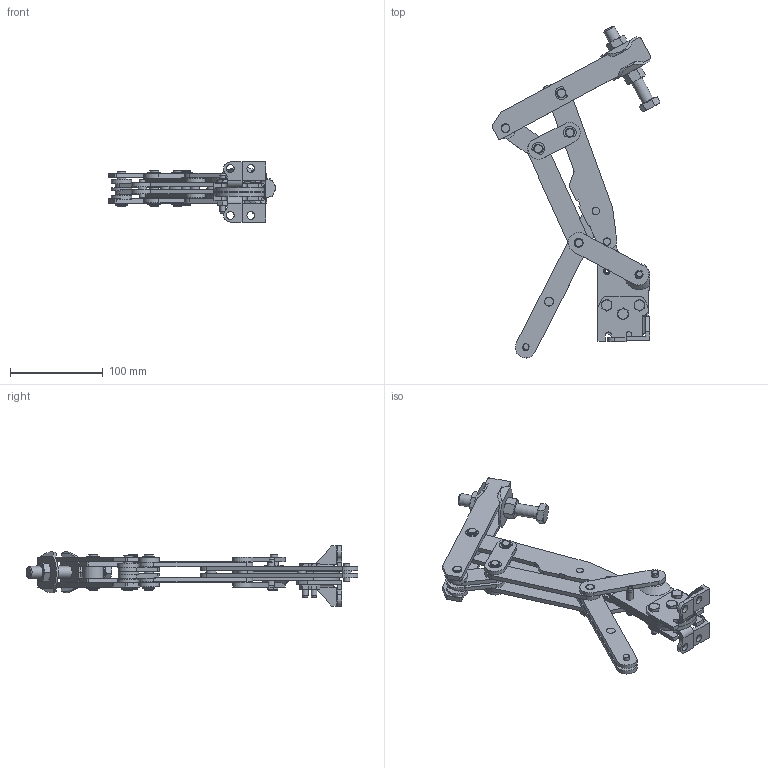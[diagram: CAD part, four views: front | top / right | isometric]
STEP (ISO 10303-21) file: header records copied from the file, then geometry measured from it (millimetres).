
FILE_DESCRIPTION((' '),'2;1');
FILE_NAME('C:\Users\Nick\Desktop\Knu-Vise WIP\DTV-Series\DTV-800\3D\DTSB-800 Open.stp','2015-08-18T08:57:12',(' '),(' '),' ','ACIS',' ');
FILE_SCHEMA(('CONFIG_CONTROL_DESIGN'));
Length unit declared in the file: inch
Products named in the file (53): C:\Users\Nick\Desktop\Knu-Vise WIP\DTV-Series\DTV-800\3D\DTSB-800 Open.stp; Body1; Body2; Body3; Body4; Body5; Body6; Body7; Body8; Body9; Body10; Body11; Body12; Body13; Body14; Body15; Body16; Body17; Body18; Body19; Body20; Body21; Body22; Body23; Body24; Body25; Body26; Body27; Body28; Body29; Body30; Body31; Body32; Body33; Body34; Body35; Body36; Body37; Body38; Body39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
Assembly tree (52 placements, depth 2):
  C:\Users\Nick\Desktop\Knu-Vise WIP\DTV-Series\DTV-800\3D\DTSB-800 Open.stp
    Body1
    Body2
    Body3
    Body4
    Body5
    Body6
    Body7
    Body8
    Body9
    Body10
    Body11
    Body12
    Body13
    Body14
    Body15
    Body16
    Body17
    Body18
    Body19
    Body20
    Body21
    Body22
    Body23
    Body24
    Body25
    Body26
    Body27
    Body28
    Body29
    Body30
    Body31
    Body32
    Body33
    Body34
    Body35
    Body36
    Body37
    Body38
    Body39
    Body40
    Body41
    Body42
    Body43
    Body44
    Body45
    Body46
    Body47
    Body48
    Body49
    Body50
    Body51
    Body52
Bounding box: 180.56 x 356.99 x 64.72 mm (x, y, z)
Volume: 318703.8 mm3; surface area: 181865.7 mm2
Topology: 52 solids, 52 shells, 827 faces, 1986 edges, 1297 vertices
Faces by surface type: plane 370, cylinder 325, cone 114, bspline 16, torus 2
Full cylindrical faces by diameter (mm): 4.978 x3, 6.248 x2, 6.35 x5, 6.401 x8, 6.426 x2, 7.696 x8, 7.772 x4, 7.899 x2, 7.976 x6, 7.988 x2, 8.026 x4, 8.382 x4, 9.398 x4, 9.474 x13, 9.525 x27, 9.576 x4, 9.601 x6, 10.001 x3, 10.592 x2, 11.1 x2, 12.7 x1, 13.081 x2, 17.145 x1, 22.225 x4
Entity records: 31717 total; most frequent: CARTESIAN_POINT 5289, DIRECTION 4216, ORIENTED_EDGE 3568, EDGE_CURVE 1784, AXIS2_PLACEMENT_3D 1730, VERTEX_POINT 1258, EDGE_LOOP 1166, FACE_OUTER_BOUND 827
